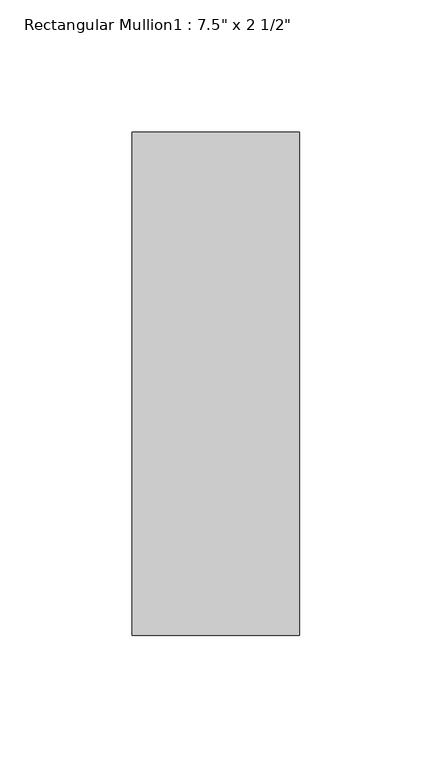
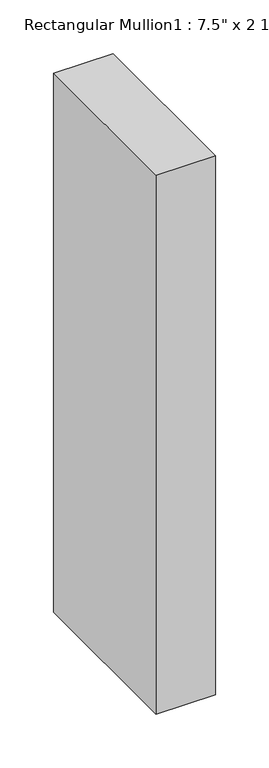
"""IFC4 building model written with IfcOpenShell, lengths in millimetres: member geometry."""

from ifc_helpers import new_model, si_unit, frame, origin, place, context, project, spatial, polyline, outline, extrude, source, transform, mapped, element, save


def member_2aeeb11b(model_context):
    return source(origin(), model_context, "Body", "SweptSolid", [
        extrude(outline(polyline([(0.0, 165.1), (0.0, -25.4), (-63.5, -25.4), (-63.5, 165.1), (0.0, 165.1)])), frame((0.0, 0.0, -610.8704451), z_axis=(0.0, 0.0, 1.0), x_axis=(1.0, 0.0, 0.0)), (0.0, 0.0, 1.0), 610.8704451),
    ])


if __name__ == "__main__":
    model = new_model("IFC4")
    model_context = context("Model", 3, world=origin())
    ifc_project = project(units=[si_unit("LENGTHUNIT", "METRE", prefix="MILLI")], contexts=[model_context])
    site = spatial("IfcSite", under=ifc_project)
    building = spatial("IfcBuilding", under=site)
    placement = place(None, origin())
    member_shape = member_2aeeb11b(model_context)
    element("IfcMember", 1, ObjectType="Rectangular Mullion1 : 7.5\" x 2 1/2\"", at=placement, inside=building, context=model_context, shape_type="MappedRepresentation", body=[
        mapped(member_shape, transform((0.0, 0.0, 0.0), x_axis=(1.0, 0.0, 0.0), y_axis=(0.0, 1.0, 0.0), z_axis=(0.0, 0.0, 1.0))),
    ])
    save(model, "model.ifc")
